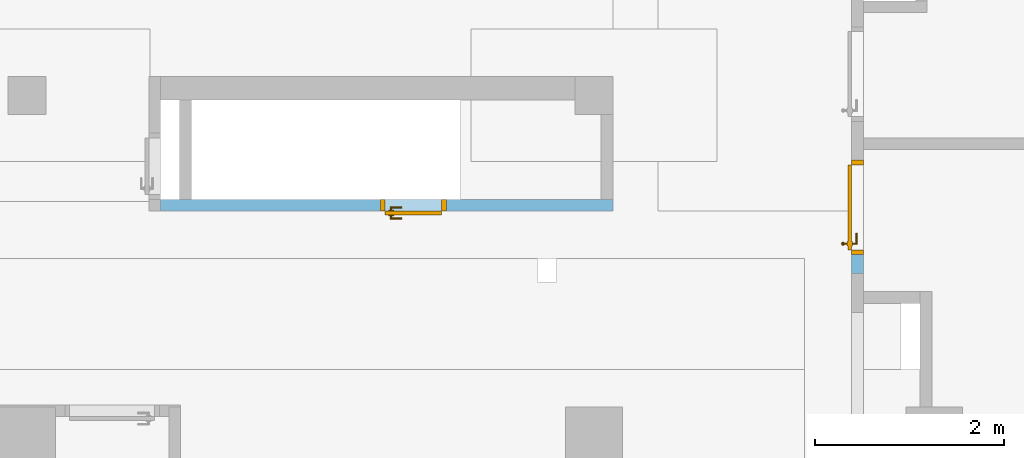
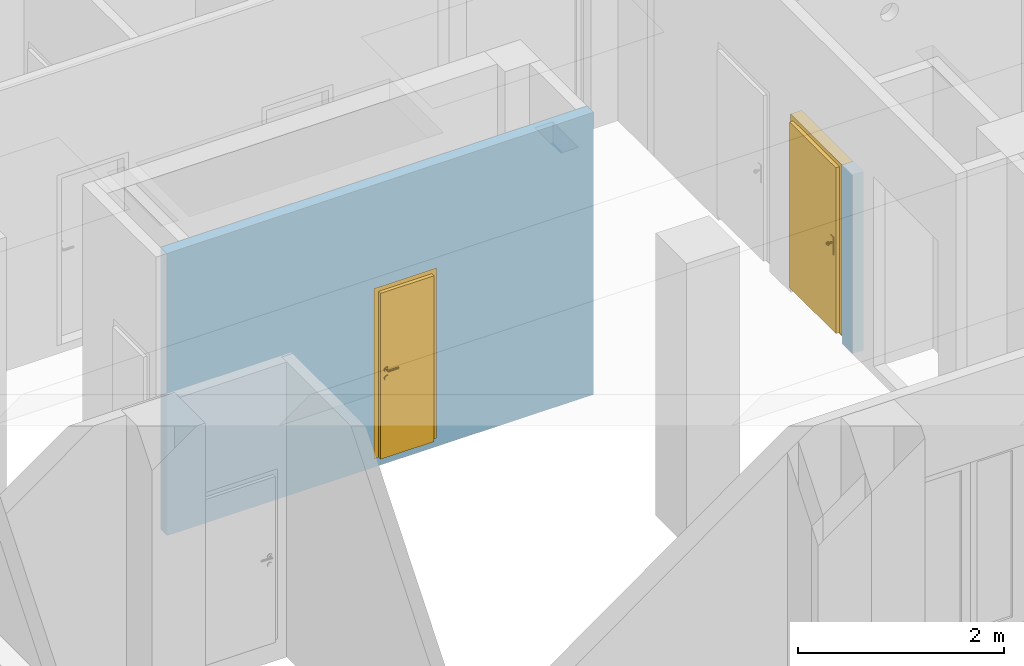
# One storey, part 85 of 140: 2 doors, 2 openings, plus 2 elements that do not belong to this part.
"""IFC4 building model written with IfcOpenShell, lengths in metres."""

from ifc_helpers import new_model, entity, si_unit, converted_unit, derived_unit, frame, frame_2d, origin, origin_with_axes, place, context, subcontext, project, spatial, polyline, rectangle, outline, extrude, closed_shell, open_shell, surface_model, source, transform, mapped, material, layer, layer_set, layer_usage, type_object, element, fill, save


model = new_model("IFC4")

# Units and contexts
model_context = context("Model", 3, precision=1e-05, world=origin())
body_context = subcontext(model_context, "Body", "Model", "MODEL_VIEW")
ifc_project = project(units=[si_unit("LENGTHUNIT", "METRE"), si_unit("AREAUNIT", "SQUARE_METRE"), si_unit("VOLUMEUNIT", "CUBIC_METRE"), si_unit("MASSUNIT", "GRAM", prefix="KILO"), converted_unit("PLANEANGLEUNIT", "DEGREE", entity("IfcPlaneAngleMeasure", 0.0174532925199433), si_unit("PLANEANGLEUNIT", "RADIAN"), dimensions=[0, 0, 0, 0, 0, 0, 0]), derived_unit("THERMALTRANSMITTANCEUNIT", [(si_unit("POWERUNIT", "WATT"), 1), (si_unit("THERMODYNAMICTEMPERATUREUNIT", "KELVIN"), -1), (si_unit("LENGTHUNIT", "METRE"), -2)]), derived_unit("VOLUMETRICFLOWRATEUNIT", [(si_unit("LENGTHUNIT", "METRE"), 3), (converted_unit("TIMEUNIT", "hour", entity("IfcTimeMeasure", 3600.0), si_unit("TIMEUNIT", "SECOND"), dimensions=[0, 0, 1, 0, 0, 0, 0]), -1), (si_unit("LENGTHUNIT", "METRE"), -1)])], contexts=[model_context])

# Site, building, storey
site_placement = place(None, origin())
site = spatial("IfcSite", under=ifc_project, at=site_placement, Name="3. ASŘ", CompositionType="ELEMENT")
building_placement = place(site_placement, origin())
building = spatial("IfcBuilding", under=site, at=building_placement, Name="Pavilon C", CompositionType="ELEMENT")
storey_placement = place(building_placement, origin())
storey = spatial("IfcBuildingStorey", under=building, at=storey_placement, Name="Půdorys 1.NP", CompositionType="ELEMENT", Elevation=0.0)

# Wall, opening, door
ifc_material_1 = material(Name="ZDIVO Z CDm")
ifc_layer_1 = layer(ifc_material_1, 0.125)
ifc_layer_set_1 = layer_set([ifc_layer_1])
ifc_layer_usage_1 = layer_usage(ifc_layer_set_1, "AXIS2", "POSITIVE", 0.0)
wall_1_placement = place(storey_placement, frame((40.55, 9.69999999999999, -0.1), z_axis=(0.0, 0.0, 1.0), x_axis=(-1.0, 0.0, 0.0)))
wall_1 = element("IfcWall", 1, at=wall_1_placement, inside=storey, material=ifc_layer_usage_1, Name="ZDIVO Z CDm", context=body_context, shape_type="SweptSolid", body=[
    extrude(rectangle(XDim=4.7875, YDim=0.125, at=frame_2d((2.39375, 0.0625), x_axis=(1.0, 0.0))), origin_with_axes(), (0.0, 0.0, 1.0), 3.35),
])
opening_1_placement = place(wall_1_placement, frame((2.46250000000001, 0.125, 0.1), z_axis=(0.0, -1.0, 0.0), x_axis=(0.0, 0.0, 1.0)))
opening_1 = element("IfcOpeningElement", 2, at=opening_1_placement, cuts=wall_1, Name="Dveřní otvor", ObjectType="Opening", context=body_context, shape_type="SweptSolid", body=[
    extrude(outline(polyline([(0.0, 0.7), (2.02, 0.7), (2.02, 0.0), (0.0, 0.0), (0.0, 0.7)])), origin_with_axes(), (0.0, 0.0, 1.0), 0.125),
])
door_type_1 = type_object("IfcDoorType", Name="D101", OperationType="NOTDEFINED", ParameterTakesPrecedence=False, PredefinedType="DOOR")
shared_shape_1 = source(origin_with_axes(), body_context, "Body", "SurfaceModel", [
    surface_model("IfcShellBasedSurfaceModel", [(0.0, 0.125, 2.02), (0.0, 0.125, -7.65404249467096e-18), (0.05, 0.125, -7.65404249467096e-18), (0.05, 0.125, 2.02), (0.0, 0.0, 7.65404249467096e-18), (0.0, 2.41584530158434e-16, 2.02), (0.05, 2.41584530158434e-16, 2.02), (0.05, 0.0, 7.65404249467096e-18)], [closed_shell([[[0, 1, 2, 3]], [[4, 5, 6, 7]], [[1, 0, 5, 4]], [[2, 1, 4, 7]], [[3, 2, 7, 6]], [[0, 3, 6, 5]]], orient=[[False], [False], [False], [False], [False], [False]])]),
    surface_model("IfcShellBasedSurfaceModel", [(0.65, 0.125, 2.02), (0.65, 0.125, -7.65404249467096e-18), (0.7, 0.125, -7.65404249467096e-18), (0.7, 0.125, 2.02), (0.65, 0.0, 7.65404249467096e-18), (0.65, 2.41584530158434e-16, 2.02), (0.7, 2.41584530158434e-16, 2.02), (0.7, 0.0, 7.65404249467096e-18)], [closed_shell([[[0, 1, 2, 3]], [[4, 5, 6, 7]], [[1, 0, 5, 4]], [[2, 1, 4, 7]], [[3, 2, 7, 6]], [[0, 3, 6, 5]]], orient=[[False], [False], [False], [False], [False], [False]])]),
    surface_model("IfcShellBasedSurfaceModel", [(0.05, 0.125, 2.02), (0.05, 0.125, 1.97), (0.65, 0.125, 1.97), (0.65, 0.125, 2.02), (0.05, 2.41584530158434e-16, 1.97), (0.05, 2.41584530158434e-16, 2.02), (0.65, 2.41584530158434e-16, 2.02), (0.65, 2.41584530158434e-16, 1.97)], [closed_shell([[[0, 1, 2, 3]], [[4, 5, 6, 7]], [[1, 0, 5, 4]], [[2, 1, 4, 7]], [[3, 2, 7, 6]], [[0, 3, 6, 5]]], orient=[[False], [False], [False], [False], [False], [False]])]),
    surface_model("IfcShellBasedSurfaceModel", [(0.05, 0.165, 1.97), (0.05, 0.165, -1.25526296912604e-17), (0.65, 0.165, -1.25526296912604e-17), (0.65, 0.165, 1.97), (0.05, 0.125, -7.65404249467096e-18), (0.05, 0.125, 1.97), (0.65, 0.125, 1.97), (0.65, 0.125, -7.65404249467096e-18)], [closed_shell([[[0, 1, 2, 3]], [[4, 5, 6, 7]], [[1, 0, 5, 4]], [[2, 1, 4, 7]], [[3, 2, 7, 6]], [[0, 3, 6, 5]]], orient=[[False], [False], [False], [False], [False], [False]])]),
    surface_model("IfcShellBasedSurfaceModel", [(0.608815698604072, 0.125, 0.93625), (0.6125, 0.125, 0.95), (0.608815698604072, 0.125, 0.96375), (0.59875, 0.125, 0.973815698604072), (0.585, 0.125, 0.9775), (0.57125, 0.125, 0.973815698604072), (0.561184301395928, 0.125, 0.96375), (0.5575, 0.125, 0.95), (0.561184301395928, 0.125, 0.93625), (0.57125, 0.125, 0.926184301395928), (0.585, 0.125, 0.9225), (0.59875, 0.125, 0.926184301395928), (0.6125, 0.1125, 0.95), (0.608815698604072, 0.1125, 0.93625), (0.59875, 0.1125, 0.926184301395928), (0.585, 0.1125, 0.9225), (0.57125, 0.1125, 0.926184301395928), (0.561184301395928, 0.1125, 0.93625), (0.5575, 0.1125, 0.95), (0.561184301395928, 0.1125, 0.96375), (0.57125, 0.1125, 0.973815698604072), (0.585, 0.1125, 0.9775), (0.59875, 0.1125, 0.973815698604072), (0.608815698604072, 0.1125, 0.96375)], [closed_shell([[[0, 1, 2, 3, 4, 5, 6, 7, 8, 9, 10, 11]], [[12, 13, 14, 15, 16, 17, 18, 19, 20, 21, 22, 23]], [[1, 0, 13, 12]], [[2, 1, 12, 23]], [[3, 2, 23, 22]], [[4, 3, 22, 21]], [[5, 4, 21, 20]], [[6, 5, 20, 19]], [[7, 6, 19, 18]], [[8, 7, 18, 17]], [[9, 8, 17, 16]], [[10, 9, 16, 15]], [[11, 10, 15, 14]], [[0, 11, 14, 13]]], orient=[[False], [False], [False], [False], [False], [False], [False], [False], [False], [False], [False], [False], [False], [False]])]),
    surface_model("IfcShellBasedSurfaceModel", [(0.608815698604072, 0.125, 1.03625), (0.6125, 0.125, 1.05), (0.608815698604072, 0.125, 1.06375), (0.59875, 0.125, 1.07381569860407), (0.585, 0.125, 1.0775), (0.57125, 0.125, 1.07381569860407), (0.561184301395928, 0.125, 1.06375), (0.5575, 0.125, 1.05), (0.561184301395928, 0.125, 1.03625), (0.57125, 0.125, 1.02618430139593), (0.585, 0.125, 1.0225), (0.59875, 0.125, 1.02618430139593), (0.6125, 0.1125, 1.05), (0.608815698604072, 0.1125, 1.03625), (0.59875, 0.1125, 1.02618430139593), (0.585, 0.1125, 1.0225), (0.57125, 0.1125, 1.02618430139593), (0.561184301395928, 0.1125, 1.03625), (0.5575, 0.1125, 1.05), (0.561184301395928, 0.1125, 1.06375), (0.57125, 0.1125, 1.07381569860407), (0.585, 0.1125, 1.0775), (0.59875, 0.1125, 1.07381569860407), (0.608815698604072, 0.1125, 1.06375)], [closed_shell([[[0, 1, 2, 3, 4, 5, 6, 7, 8, 9, 10, 11]], [[12, 13, 14, 15, 16, 17, 18, 19, 20, 21, 22, 23]], [[1, 0, 13, 12]], [[2, 1, 12, 23]], [[3, 2, 23, 22]], [[4, 3, 22, 21]], [[5, 4, 21, 20]], [[6, 5, 20, 19]], [[7, 6, 19, 18]], [[8, 7, 18, 17]], [[9, 8, 17, 16]], [[10, 9, 16, 15]], [[11, 10, 15, 14]], [[0, 11, 14, 13]]], orient=[[False], [False], [False], [False], [False], [False], [False], [False], [False], [False], [False], [False], [False], [False]])]),
    surface_model("IfcShellBasedSurfaceModel", [(0.585, 0.125, 1.06), (0.58, 0.125, 1.05866025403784), (0.576339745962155, 0.125, 1.055), (0.575, 0.125, 1.05), (0.576339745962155, 0.125, 1.045), (0.58, 0.125, 1.04133974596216), (0.585, 0.125, 1.04), (0.59, 0.125, 1.04133974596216), (0.593660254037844, 0.125, 1.045), (0.595, 0.125, 1.05), (0.593660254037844, 0.125, 1.055), (0.59, 0.125, 1.05866025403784), (0.59, 0.0800000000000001, 1.05866025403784), (0.585, 0.0850000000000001, 1.06), (0.593660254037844, 0.0763397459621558, 1.055), (0.595, 0.0750000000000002, 1.05), (0.593660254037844, 0.0763397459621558, 1.045), (0.59, 0.0800000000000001, 1.04133974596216), (0.585, 0.0850000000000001, 1.04), (0.58, 0.0900000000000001, 1.04133974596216), (0.576339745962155, 0.0936602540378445, 1.045), (0.575, 0.0950000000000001, 1.05), (0.576339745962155, 0.0936602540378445, 1.055), (0.58, 0.0900000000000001, 1.05866025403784), (0.47, 0.0800000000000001, 1.05866025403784), (0.47, 0.0850000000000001, 1.06), (0.47, 0.0763397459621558, 1.055), (0.47, 0.0750000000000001, 1.05), (0.47, 0.0763397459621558, 1.045), (0.47, 0.0800000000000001, 1.04133974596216), (0.47, 0.0850000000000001, 1.04), (0.47, 0.0900000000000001, 1.04133974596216), (0.47, 0.0936602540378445, 1.045), (0.47, 0.0950000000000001, 1.05), (0.47, 0.0936602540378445, 1.055), (0.47, 0.0900000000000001, 1.05866025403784)], [open_shell([[[0, 1, 2, 3, 4, 5, 6, 7, 8, 9, 10, 11]], [[0, 11, 12, 13]], [[11, 10, 14, 12]], [[10, 9, 15, 14]], [[9, 8, 16, 15]], [[8, 7, 17, 16]], [[7, 6, 18, 17]], [[6, 5, 19, 18]], [[5, 4, 20, 19]], [[4, 3, 21, 20]], [[3, 2, 22, 21]], [[2, 1, 23, 22]], [[1, 0, 13, 23]], [[13, 12, 24, 25]], [[12, 14, 26, 24]], [[14, 15, 27, 26]], [[15, 16, 28, 27]], [[16, 17, 29, 28]], [[17, 18, 30, 29]], [[18, 19, 31, 30]], [[19, 20, 32, 31]], [[20, 21, 33, 32]], [[21, 22, 34, 33]], [[22, 23, 35, 34]], [[23, 13, 25, 35]]], orient=[[False], [False], [False], [False], [False], [False], [False], [False], [False], [False], [False], [False], [False], [False], [False], [False], [False], [False], [False], [False], [False], [False], [False], [False], [False]])]),
    surface_model("IfcShellBasedSurfaceModel", [(0.608815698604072, 0.165, 0.93625), (0.59875, 0.165, 0.926184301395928), (0.585, 0.165, 0.9225), (0.57125, 0.165, 0.926184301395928), (0.561184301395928, 0.165, 0.93625), (0.5575, 0.165, 0.95), (0.561184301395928, 0.165, 0.96375), (0.57125, 0.165, 0.973815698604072), (0.585, 0.165, 0.9775), (0.59875, 0.165, 0.973815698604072), (0.608815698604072, 0.165, 0.96375), (0.6125, 0.165, 0.95), (0.6125, 0.1775, 0.95), (0.608815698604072, 0.1775, 0.96375), (0.59875, 0.1775, 0.973815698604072), (0.585, 0.1775, 0.9775), (0.57125, 0.1775, 0.973815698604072), (0.561184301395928, 0.1775, 0.96375), (0.5575, 0.1775, 0.95), (0.561184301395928, 0.1775, 0.93625), (0.57125, 0.1775, 0.926184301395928), (0.585, 0.1775, 0.9225), (0.59875, 0.1775, 0.926184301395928), (0.608815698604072, 0.1775, 0.93625)], [closed_shell([[[0, 1, 2, 3, 4, 5, 6, 7, 8, 9, 10, 11]], [[12, 13, 14, 15, 16, 17, 18, 19, 20, 21, 22, 23]], [[11, 12, 23, 0]], [[10, 13, 12, 11]], [[9, 14, 13, 10]], [[8, 15, 14, 9]], [[7, 16, 15, 8]], [[6, 17, 16, 7]], [[5, 18, 17, 6]], [[4, 19, 18, 5]], [[3, 20, 19, 4]], [[2, 21, 20, 3]], [[1, 22, 21, 2]], [[0, 23, 22, 1]]], orient=[[False], [False], [False], [False], [False], [False], [False], [False], [False], [False], [False], [False], [False], [False]])]),
    surface_model("IfcShellBasedSurfaceModel", [(0.608815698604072, 0.165, 1.03625), (0.59875, 0.165, 1.02618430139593), (0.585, 0.165, 1.0225), (0.57125, 0.165, 1.02618430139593), (0.561184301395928, 0.165, 1.03625), (0.5575, 0.165, 1.05), (0.561184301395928, 0.165, 1.06375), (0.57125, 0.165, 1.07381569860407), (0.585, 0.165, 1.0775), (0.59875, 0.165, 1.07381569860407), (0.608815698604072, 0.165, 1.06375), (0.6125, 0.165, 1.05), (0.6125, 0.1775, 1.05), (0.608815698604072, 0.1775, 1.06375), (0.59875, 0.1775, 1.07381569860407), (0.585, 0.1775, 1.0775), (0.57125, 0.1775, 1.07381569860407), (0.561184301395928, 0.1775, 1.06375), (0.5575, 0.1775, 1.05), (0.561184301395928, 0.1775, 1.03625), (0.57125, 0.1775, 1.02618430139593), (0.585, 0.1775, 1.0225), (0.59875, 0.1775, 1.02618430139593), (0.608815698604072, 0.1775, 1.03625)], [closed_shell([[[0, 1, 2, 3, 4, 5, 6, 7, 8, 9, 10, 11]], [[12, 13, 14, 15, 16, 17, 18, 19, 20, 21, 22, 23]], [[11, 12, 23, 0]], [[10, 13, 12, 11]], [[9, 14, 13, 10]], [[8, 15, 14, 9]], [[7, 16, 15, 8]], [[6, 17, 16, 7]], [[5, 18, 17, 6]], [[4, 19, 18, 5]], [[3, 20, 19, 4]], [[2, 21, 20, 3]], [[1, 22, 21, 2]], [[0, 23, 22, 1]]], orient=[[False], [False], [False], [False], [False], [False], [False], [False], [False], [False], [False], [False], [False], [False]])]),
    surface_model("IfcShellBasedSurfaceModel", [(0.585, 0.165, 1.06), (0.59, 0.165, 1.05866025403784), (0.593660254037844, 0.165, 1.055), (0.595, 0.165, 1.05), (0.593660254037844, 0.165, 1.045), (0.59, 0.165, 1.04133974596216), (0.585, 0.165, 1.04), (0.58, 0.165, 1.04133974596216), (0.576339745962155, 0.165, 1.045), (0.575, 0.165, 1.05), (0.576339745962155, 0.165, 1.055), (0.58, 0.165, 1.05866025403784), (0.585, 0.205, 1.06), (0.59, 0.21, 1.05866025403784), (0.593660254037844, 0.213660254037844, 1.055), (0.595, 0.215, 1.05), (0.593660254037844, 0.213660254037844, 1.045), (0.59, 0.21, 1.04133974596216), (0.585, 0.205, 1.04), (0.58, 0.2, 1.04133974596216), (0.576339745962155, 0.196339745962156, 1.045), (0.575, 0.195, 1.05), (0.576339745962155, 0.196339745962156, 1.055), (0.58, 0.2, 1.05866025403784), (0.47, 0.205, 1.06), (0.47, 0.21, 1.05866025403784), (0.47, 0.213660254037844, 1.055), (0.47, 0.215, 1.05), (0.47, 0.213660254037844, 1.045), (0.47, 0.21, 1.04133974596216), (0.47, 0.205, 1.04), (0.47, 0.2, 1.04133974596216), (0.47, 0.196339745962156, 1.045), (0.47, 0.195, 1.05), (0.47, 0.196339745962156, 1.055), (0.47, 0.2, 1.05866025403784)], [open_shell([[[0, 1, 2, 3, 4, 5, 6, 7, 8, 9, 10, 11]], [[0, 12, 13, 1]], [[1, 13, 14, 2]], [[2, 14, 15, 3]], [[3, 15, 16, 4]], [[4, 16, 17, 5]], [[5, 17, 18, 6]], [[6, 18, 19, 7]], [[7, 19, 20, 8]], [[8, 20, 21, 9]], [[9, 21, 22, 10]], [[10, 22, 23, 11]], [[11, 23, 12, 0]], [[12, 24, 25, 13]], [[13, 25, 26, 14]], [[14, 26, 27, 15]], [[15, 27, 28, 16]], [[16, 28, 29, 17]], [[17, 29, 30, 18]], [[18, 30, 31, 19]], [[19, 31, 32, 20]], [[20, 32, 33, 21]], [[21, 33, 34, 22]], [[22, 34, 35, 23]], [[23, 35, 24, 12]]], orient=[[False], [False], [False], [False], [False], [False], [False], [False], [False], [False], [False], [False], [False], [False], [False], [False], [False], [False], [False], [False], [False], [False], [False], [False], [False]])]),
])
door_1_placement = place(opening_1_placement, frame((0.0, 0.7, 0.125), z_axis=(1.0, 0.0, 0.0), x_axis=(0.0, -1.0, 1.22464679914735e-16)))
door_1 = element("IfcDoor", 3, at=door_1_placement, inside=storey, type_object=door_type_1, Name="D101", OverallHeight=2.02, OverallWidth=0.7, context=body_context, shape_type="MappedRepresentation", body=[
    mapped(shared_shape_1, transform((0.0, 0.0, 0.0), x_axis=(1.0, 0.0, 0.0), y_axis=(0.0, 1.0, 0.0), z_axis=(0.0, 0.0, 1.0), scale=1.0)),
])
fill(opening_1, door_1)

ifc_material_2 = material(Name="YTONG 125")
ifc_layer_2 = layer(ifc_material_2, 0.125)
ifc_layer_set_2 = layer_set([ifc_layer_2])
ifc_layer_usage_2 = layer_usage(ifc_layer_set_2, "AXIS2", "POSITIVE", 0.0)
wall_2_placement = place(storey_placement, frame((43.2, 8.915, -0.1), z_axis=(0.0, 0.0, 1.0), x_axis=(0.0, 1.0, 0.0)))
wall_2 = element("IfcWall", 4, at=wall_2_placement, inside=storey, material=ifc_layer_usage_2, Name="YTONG 125", context=body_context, shape_type="SweptSolid", body=[
    extrude(rectangle(XDim=1.2, YDim=0.125, at=frame_2d((0.6, 0.0625), x_axis=(1.0, 0.0))), origin_with_axes(), (0.0, 0.0, 1.0), 2.12),
])
opening_2_placement = place(wall_2_placement, frame((1.2, 0.125, 0.0), z_axis=(0.0, -1.0, 0.0), x_axis=(0.0, 0.0, 1.0)))
opening_2 = element("IfcOpeningElement", 5, at=opening_2_placement, cuts=wall_2, Name="Dveřní otvor", ObjectType="Opening", context=body_context, shape_type="SweptSolid", body=[
    extrude(outline(polyline([(0.0, 1.0), (2.12, 1.0), (2.12, 0.0), (0.0, 0.0), (0.0, 1.0)])), origin_with_axes(), (0.0, 0.0, 1.0), 0.125),
])
door_type_2 = type_object("IfcDoorType", Name="I.D102", OperationType="NOTDEFINED", ParameterTakesPrecedence=False, PredefinedType="DOOR")
shared_shape_2 = source(origin_with_axes(), body_context, "Body", "SurfaceModel", [
    surface_model("IfcShellBasedSurfaceModel", [(0.0, 0.0625, 0.0), (1.0, 0.0625, 0.0), (1.0, 0.0625, 0.1), (0.0, 0.0625, 0.1)], [open_shell([[[0, 1, 2, 3]]], orient=[[False]])]),
    surface_model("IfcShellBasedSurfaceModel", [(0.0, 0.125, 2.12), (0.0, 0.125, 0.101), (0.05, 0.125, 0.101), (0.05, 0.125, 2.12), (0.0, 0.0, 0.101), (0.0, 2.41584530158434e-16, 2.12), (0.05, 2.41584530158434e-16, 2.12), (0.05, 0.0, 0.101)], [closed_shell([[[0, 1, 2, 3]], [[4, 5, 6, 7]], [[1, 0, 5, 4]], [[2, 1, 4, 7]], [[3, 2, 7, 6]], [[0, 3, 6, 5]]], orient=[[False], [False], [False], [False], [False], [False]])]),
    surface_model("IfcShellBasedSurfaceModel", [(0.95, 0.125, 2.12), (0.95, 0.125, 0.101), (1.0, 0.125, 0.101), (1.0, 0.125, 2.12), (0.95, 0.0, 0.101), (0.95, 2.41584530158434e-16, 2.12), (1.0, 2.41584530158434e-16, 2.12), (1.0, 0.0, 0.101)], [closed_shell([[[0, 1, 2, 3]], [[4, 5, 6, 7]], [[1, 0, 5, 4]], [[2, 1, 4, 7]], [[3, 2, 7, 6]], [[0, 3, 6, 5]]], orient=[[False], [False], [False], [False], [False], [False]])]),
    surface_model("IfcShellBasedSurfaceModel", [(0.05, 0.125, 2.12), (0.05, 0.125, 2.07), (0.95, 0.125, 2.07), (0.95, 0.125, 2.12), (0.05, 2.41584530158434e-16, 2.07), (0.05, 2.41584530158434e-16, 2.12), (0.95, 2.41584530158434e-16, 2.12), (0.95, 2.41584530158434e-16, 2.07)], [closed_shell([[[0, 1, 2, 3]], [[4, 5, 6, 7]], [[1, 0, 5, 4]], [[2, 1, 4, 7]], [[3, 2, 7, 6]], [[0, 3, 6, 5]]], orient=[[False], [False], [False], [False], [False], [False]])]),
    surface_model("IfcShellBasedSurfaceModel", [(0.05, 0.165, 2.07), (0.05, 0.165, 0.101), (0.95, 0.165, 0.101), (0.95, 0.165, 2.07), (0.05, 0.125, 0.101), (0.05, 0.125, 2.07), (0.95, 0.125, 2.07), (0.95, 0.125, 0.101)], [closed_shell([[[0, 1, 2, 3]], [[4, 5, 6, 7]], [[1, 0, 5, 4]], [[2, 1, 4, 7]], [[3, 2, 7, 6]], [[0, 3, 6, 5]]], orient=[[False], [False], [False], [False], [False], [False]])]),
    surface_model("IfcShellBasedSurfaceModel", [(0.09, 0.125, 1.226), (0.09, 0.125, 1.011), (0.14, 0.125, 1.011), (0.14, 0.125, 1.226), (0.09, 0.115, 1.011), (0.09, 0.115, 1.226), (0.14, 0.115, 1.226), (0.14, 0.115, 1.011)], [closed_shell([[[0, 1, 2, 3]], [[4, 5, 6, 7]], [[1, 0, 5, 4]], [[2, 1, 4, 7]], [[3, 2, 7, 6]], [[0, 3, 6, 5]]], orient=[[False], [False], [False], [False], [False], [False]])]),
    surface_model("IfcShellBasedSurfaceModel", [(0.115, 0.115, 1.161), (0.11, 0.115, 1.15966025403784), (0.106339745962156, 0.115, 1.156), (0.105, 0.115, 1.151), (0.106339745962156, 0.115, 1.146), (0.11, 0.115, 1.14233974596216), (0.115, 0.115, 1.141), (0.12, 0.115, 1.14233974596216), (0.123660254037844, 0.115, 1.146), (0.125, 0.115, 1.151), (0.123660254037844, 0.115, 1.156), (0.12, 0.115, 1.15966025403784), (0.115, 0.0750000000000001, 1.161), (0.11, 0.0700000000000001, 1.15966025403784), (0.106339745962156, 0.0663397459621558, 1.156), (0.105, 0.0650000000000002, 1.151), (0.106339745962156, 0.0663397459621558, 1.146), (0.11, 0.0700000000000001, 1.14233974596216), (0.115, 0.0750000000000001, 1.141), (0.12, 0.0800000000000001, 1.14233974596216), (0.123660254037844, 0.0836602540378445, 1.146), (0.125, 0.0850000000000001, 1.151), (0.123660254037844, 0.0836602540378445, 1.156), (0.12, 0.0800000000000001, 1.15966025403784), (0.23, 0.0750000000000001, 1.161), (0.23, 0.0700000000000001, 1.15966025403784), (0.23, 0.0663397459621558, 1.156), (0.23, 0.0650000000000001, 1.151), (0.23, 0.0663397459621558, 1.146), (0.23, 0.0700000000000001, 1.14233974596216), (0.23, 0.0750000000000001, 1.141), (0.23, 0.0800000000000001, 1.14233974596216), (0.23, 0.0836602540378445, 1.146), (0.23, 0.0850000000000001, 1.151), (0.23, 0.0836602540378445, 1.156), (0.23, 0.0800000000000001, 1.15966025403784)], [open_shell([[[0, 1, 2, 3, 4, 5, 6, 7, 8, 9, 10, 11]], [[0, 12, 13, 1]], [[1, 13, 14, 2]], [[2, 14, 15, 3]], [[3, 15, 16, 4]], [[4, 16, 17, 5]], [[5, 17, 18, 6]], [[6, 18, 19, 7]], [[7, 19, 20, 8]], [[8, 20, 21, 9]], [[9, 21, 22, 10]], [[10, 22, 23, 11]], [[11, 23, 12, 0]], [[12, 24, 25, 13]], [[13, 25, 26, 14]], [[14, 26, 27, 15]], [[15, 27, 28, 16]], [[16, 28, 29, 17]], [[17, 29, 30, 18]], [[18, 30, 31, 19]], [[19, 31, 32, 20]], [[20, 32, 33, 21]], [[21, 33, 34, 22]], [[22, 34, 35, 23]], [[23, 35, 24, 12]]], orient=[[False], [False], [False], [False], [False], [False], [False], [False], [False], [False], [False], [False], [False], [False], [False], [False], [False], [False], [False], [False], [False], [False], [False], [False], [False]])]),
    surface_model("IfcShellBasedSurfaceModel", [(0.09, 0.165, 1.226), (0.14, 0.165, 1.226), (0.14, 0.165, 1.011), (0.09, 0.165, 1.011), (0.09, 0.175, 1.011), (0.14, 0.175, 1.011), (0.14, 0.175, 1.226), (0.09, 0.175, 1.226)], [closed_shell([[[0, 1, 2, 3]], [[4, 5, 6, 7]], [[3, 4, 7, 0]], [[2, 5, 4, 3]], [[1, 6, 5, 2]], [[0, 7, 6, 1]]], orient=[[False], [False], [False], [False], [False], [False]])]),
    surface_model("IfcShellBasedSurfaceModel", [(0.123660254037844, 0.175, 1.146), (0.12, 0.175, 1.14233974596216), (0.115, 0.175, 1.141), (0.11, 0.175, 1.14233974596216), (0.106339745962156, 0.175, 1.146), (0.105, 0.175, 1.151), (0.106339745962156, 0.175, 1.156), (0.11, 0.175, 1.15966025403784), (0.115, 0.175, 1.161), (0.12, 0.175, 1.15966025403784), (0.123660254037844, 0.175, 1.156), (0.125, 0.175, 1.151), (0.125, 0.215, 1.151), (0.123660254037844, 0.215, 1.156), (0.12, 0.215, 1.15966025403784), (0.115, 0.215, 1.161), (0.11, 0.215, 1.15966025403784), (0.106339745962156, 0.215, 1.156), (0.105, 0.215, 1.151), (0.106339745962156, 0.215, 1.146), (0.11, 0.215, 1.14233974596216), (0.115, 0.215, 1.141), (0.12, 0.215, 1.14233974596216), (0.123660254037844, 0.215, 1.146)], [closed_shell([[[0, 1, 2, 3, 4, 5, 6, 7, 8, 9, 10, 11]], [[12, 13, 14, 15, 16, 17, 18, 19, 20, 21, 22, 23]], [[11, 12, 23, 0]], [[10, 13, 12, 11]], [[9, 14, 13, 10]], [[8, 15, 14, 9]], [[7, 16, 15, 8]], [[6, 17, 16, 7]], [[5, 18, 17, 6]], [[4, 19, 18, 5]], [[3, 20, 19, 4]], [[2, 21, 20, 3]], [[1, 22, 21, 2]], [[0, 23, 22, 1]]], orient=[[False], [False], [False], [False], [False], [False], [False], [False], [False], [False], [False], [False], [False], [False]])]),
    surface_model("IfcShellBasedSurfaceModel", [(0.135, 0.215, 1.151), (0.132320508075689, 0.215, 1.161), (0.13, 0.225, 1.15966025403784), (0.132320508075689, 0.225, 1.151), (0.125, 0.215, 1.16832050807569), (0.123660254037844, 0.225, 1.166), (0.115, 0.215, 1.171), (0.115, 0.225, 1.16832050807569), (0.105, 0.215, 1.16832050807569), (0.106339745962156, 0.225, 1.166), (0.0976794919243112, 0.215, 1.161), (0.1, 0.225, 1.15966025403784), (0.095, 0.215, 1.151), (0.0976794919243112, 0.225, 1.151), (0.0976794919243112, 0.215, 1.141), (0.1, 0.225, 1.14233974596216), (0.105, 0.215, 1.13367949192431), (0.106339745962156, 0.225, 1.136), (0.115, 0.215, 1.131), (0.115, 0.225, 1.13367949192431), (0.125, 0.215, 1.13367949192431), (0.123660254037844, 0.225, 1.136), (0.132320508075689, 0.215, 1.141), (0.13, 0.225, 1.14233974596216), (0.123660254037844, 0.232320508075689, 1.156), (0.125, 0.232320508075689, 1.151), (0.12, 0.232320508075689, 1.15966025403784), (0.115, 0.232320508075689, 1.161), (0.11, 0.232320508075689, 1.15966025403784), (0.106339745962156, 0.232320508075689, 1.156), (0.105, 0.232320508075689, 1.151), (0.106339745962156, 0.232320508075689, 1.146), (0.11, 0.232320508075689, 1.14233974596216), (0.115, 0.232320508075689, 1.141), (0.12, 0.232320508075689, 1.14233974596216), (0.123660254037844, 0.232320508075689, 1.146), (0.115, 0.235, 1.151), (0.132320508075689, 0.205, 1.151), (0.13, 0.205, 1.15966025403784), (0.123660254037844, 0.205, 1.166), (0.115, 0.205, 1.16832050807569), (0.106339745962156, 0.205, 1.166), (0.1, 0.205, 1.15966025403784), (0.0976794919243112, 0.205, 1.151), (0.1, 0.205, 1.14233974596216), (0.106339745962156, 0.205, 1.136), (0.115, 0.205, 1.13367949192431), (0.123660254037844, 0.205, 1.136), (0.13, 0.205, 1.14233974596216), (0.125, 0.197679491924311, 1.151), (0.123660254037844, 0.197679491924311, 1.156), (0.12, 0.197679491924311, 1.15966025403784), (0.115, 0.197679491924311, 1.161), (0.11, 0.197679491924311, 1.15966025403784), (0.106339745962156, 0.197679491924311, 1.156), (0.105, 0.197679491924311, 1.151), (0.106339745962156, 0.197679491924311, 1.146), (0.11, 0.197679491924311, 1.14233974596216), (0.115, 0.197679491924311, 1.141), (0.12, 0.197679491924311, 1.14233974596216), (0.123660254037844, 0.197679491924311, 1.146), (0.115, 0.195, 1.151)], [closed_shell([[[0, 1, 2, 3]], [[1, 4, 5, 2]], [[4, 6, 7, 5]], [[6, 8, 9, 7]], [[8, 10, 11, 9]], [[10, 12, 13, 11]], [[12, 14, 15, 13]], [[14, 16, 17, 15]], [[16, 18, 19, 17]], [[18, 20, 21, 19]], [[20, 22, 23, 21]], [[22, 0, 3, 23]], [[3, 2, 24, 25]], [[2, 5, 26, 24]], [[5, 7, 27, 26]], [[7, 9, 28, 27]], [[9, 11, 29, 28]], [[11, 13, 30, 29]], [[13, 15, 31, 30]], [[15, 17, 32, 31]], [[17, 19, 33, 32]], [[19, 21, 34, 33]], [[21, 23, 35, 34]], [[23, 3, 25, 35]], [[25, 24, 36]], [[24, 26, 36]], [[26, 27, 36]], [[27, 28, 36]], [[28, 29, 36]], [[29, 30, 36]], [[30, 31, 36]], [[31, 32, 36]], [[32, 33, 36]], [[33, 34, 36]], [[34, 35, 36]], [[35, 25, 36]], [[37, 38, 1, 0]], [[38, 39, 4, 1]], [[39, 40, 6, 4]], [[40, 41, 8, 6]], [[41, 42, 10, 8]], [[42, 43, 12, 10]], [[43, 44, 14, 12]], [[44, 45, 16, 14]], [[45, 46, 18, 16]], [[46, 47, 20, 18]], [[47, 48, 22, 20]], [[48, 37, 0, 22]], [[49, 50, 38, 37]], [[50, 51, 39, 38]], [[51, 52, 40, 39]], [[52, 53, 41, 40]], [[53, 54, 42, 41]], [[54, 55, 43, 42]], [[55, 56, 44, 43]], [[56, 57, 45, 44]], [[57, 58, 46, 45]], [[58, 59, 47, 46]], [[59, 60, 48, 47]], [[60, 49, 37, 48]], [[61, 50, 49]], [[61, 51, 50]], [[61, 52, 51]], [[61, 53, 52]], [[61, 54, 53]], [[61, 55, 54]], [[61, 56, 55]], [[61, 57, 56]], [[61, 58, 57]], [[61, 59, 58]], [[61, 60, 59]], [[61, 49, 60]]], orient=[[False], [False], [False], [False], [False], [False], [False], [False], [False], [False], [False], [False], [False], [False], [False], [False], [False], [False], [False], [False], [False], [False], [False], [False], [False], [False], [False], [False], [False], [False], [False], [False], [False], [False], [False], [False], [False], [False], [False], [False], [False], [False], [False], [False], [False], [False], [False], [False], [False], [False], [False], [False], [False], [False], [False], [False], [False], [False], [False], [False], [False], [False], [False], [False], [False], [False], [False], [False], [False], [False], [False], [False]])]),
])
door_2_placement = place(opening_2_placement, frame((0.0, 1.00000000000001, 0.124999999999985), z_axis=(1.0, 0.0, 0.0), x_axis=(0.0, -1.0, 1.22464679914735e-16)))
door_2 = element("IfcDoor", 6, at=door_2_placement, inside=storey, type_object=door_type_2, Name="I.D102", OverallHeight=2.12, OverallWidth=1.0, context=body_context, shape_type="MappedRepresentation", body=[
    mapped(shared_shape_2, transform((0.0, 0.0, 0.0), x_axis=(1.0, 0.0, 0.0), y_axis=(0.0, 1.0, 0.0), z_axis=(0.0, 0.0, 1.0), scale=1.0)),
])
fill(opening_2, door_2)

save(model, "model.ifc")
